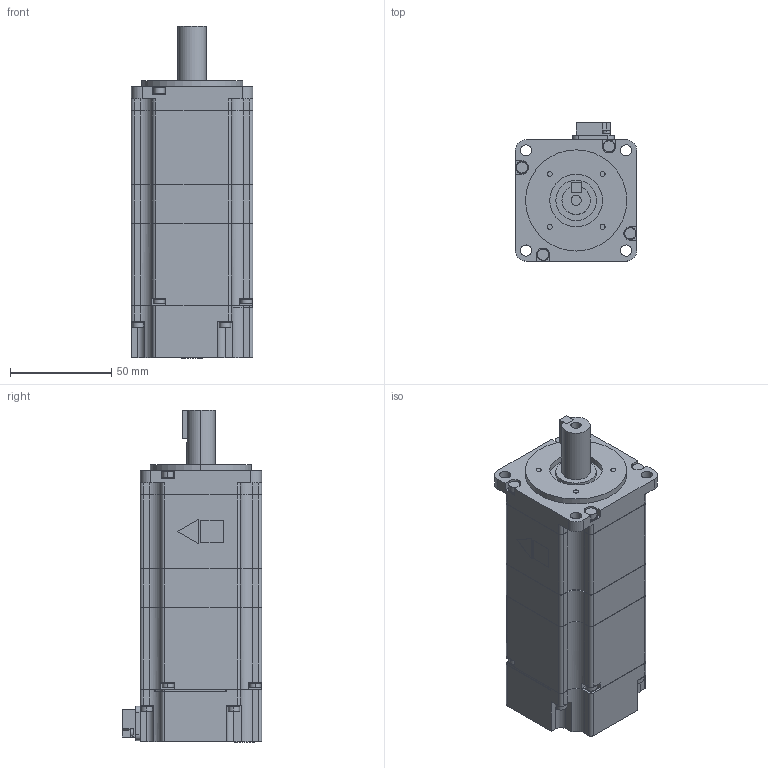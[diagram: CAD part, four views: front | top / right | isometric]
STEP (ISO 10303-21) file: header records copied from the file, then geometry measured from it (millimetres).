
FILE_DESCRIPTION (( 'STEP AP203' ), '1' );
FILE_NAME ('sgm7a_04a6a6c.STEP', '2016-11-12T04:44:27', ( '匠エンジニアリング山之内' ), ( 'TAKUMI-Engniaring' ), 'SwSTEP 2.0', 'SolidWorks 2006303', '' );
FILE_SCHEMA (( 'CONFIG_CONTROL_DESIGN' ));
Length unit declared in the file: millimetre
Products named in the file (3): sgm7a_04a6a6c_base; sgm7a_04a6a6c; sgm7a_04a6a6c_key
Assembly tree (2 placements, depth 2):
  sgm7a_04a6a6c
    sgm7a_04a6a6c_base
    sgm7a_04a6a6c_key
Bounding box: 60.1 x 68.8 x 164.1 mm (x, y, z)
Volume: 435132.8 mm3; surface area: 44330.4 mm2
Topology: 2 solids, 2 shells, 522 faces, 1367 edges, 906 vertices
Faces by surface type: plane 293, cylinder 229
Entity records: 16517 total; most frequent: DIRECTION 2892, CARTESIAN_POINT 2846, ORIENTED_EDGE 2734, EDGE_CURVE 1367, AXIS2_PLACEMENT_3D 1002, VERTEX_POINT 906, LINE 888, VECTOR 888
